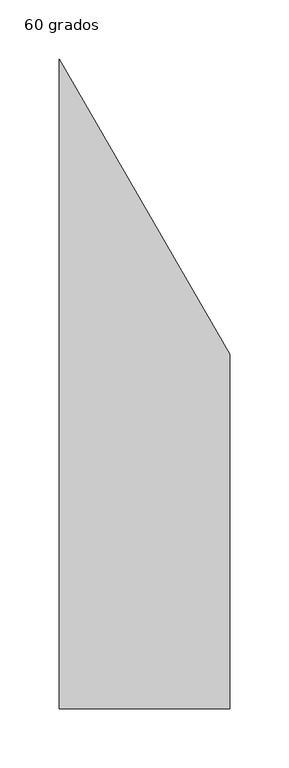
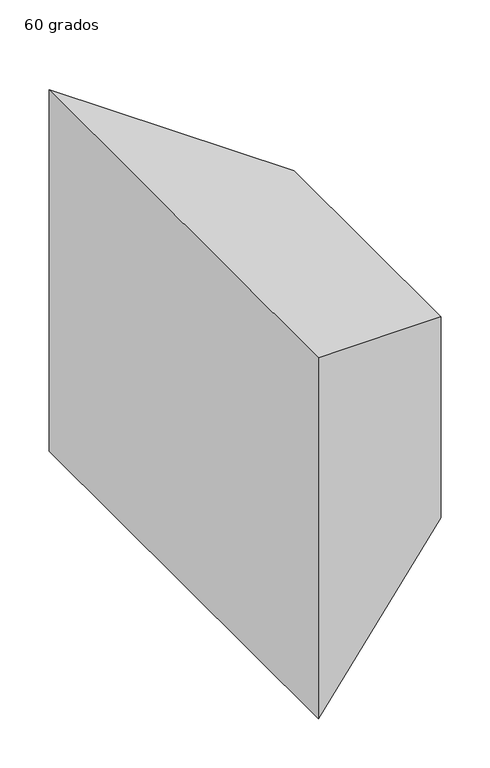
"""IFC4 building model written with IfcOpenShell, lengths in millimetres: duct fitting geometry, M_Transición rectangular - Ángulo : 60 grados."""

from ifc_helpers import new_model, si_unit, origin, place, context, project, spatial, faceted_brep, source, transform, mapped, element, save


def duct_fitting_60_grados_774df64c(model_context):
    return source(origin(), model_context, "Body", "Brep", [
        faceted_brep([(144.3375673, -275.0, 225.0), (144.3375673, -275.0, -25.0), (144.3375673, 25.0, -25.0), (144.3375673, 25.0, 225.0), (0.0, -275.0, 225.0), (0.0, 275.0, 225.0), (0.0, 275.0, -225.0), (0.0, -275.0, -225.0)], [[[0, 1, 2, 3]], [[4, 5, 6, 7]], [[4, 7, 1, 0]], [[7, 6, 2, 1]], [[6, 5, 3, 2]], [[5, 4, 0, 3]]]),
    ])


if __name__ == "__main__":
    model = new_model("IFC4")
    model_context = context("Model", 3, world=origin())
    ifc_project = project(units=[si_unit("LENGTHUNIT", "METRE", prefix="MILLI")], contexts=[model_context])
    site = spatial("IfcSite", under=ifc_project)
    building = spatial("IfcBuilding", under=site)
    placement = place(None, origin())
    duct_fitting_60_grados_shape = duct_fitting_60_grados_774df64c(model_context)
    element("IfcDuctFitting", 1, ObjectType="M_Transición rectangular - Ángulo : 60 grados", at=placement, inside=building, context=model_context, shape_type="MappedRepresentation", body=[
        mapped(duct_fitting_60_grados_shape, transform((0.0, 0.0, 0.0), x_axis=(1.0, 0.0, 0.0), y_axis=(0.0, 1.0, 0.0), z_axis=(0.0, 0.0, 1.0))),
    ])
    save(model, "model.ifc")
